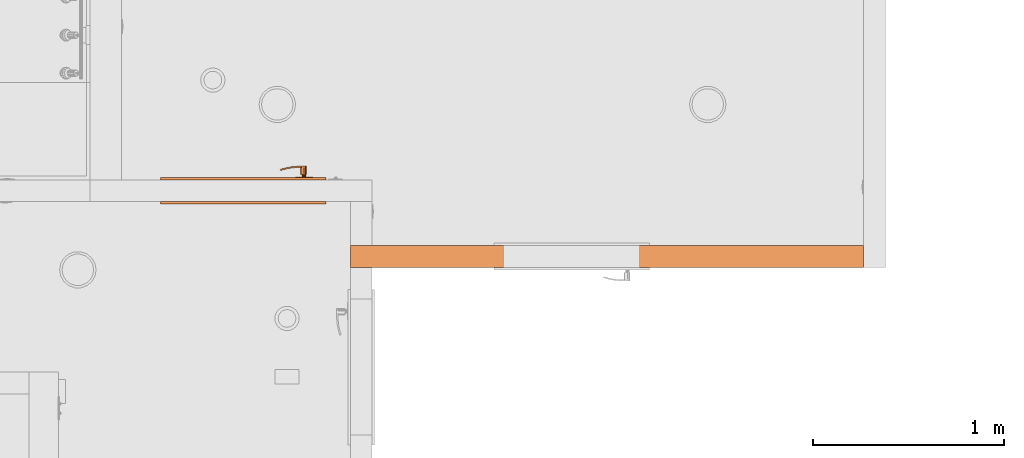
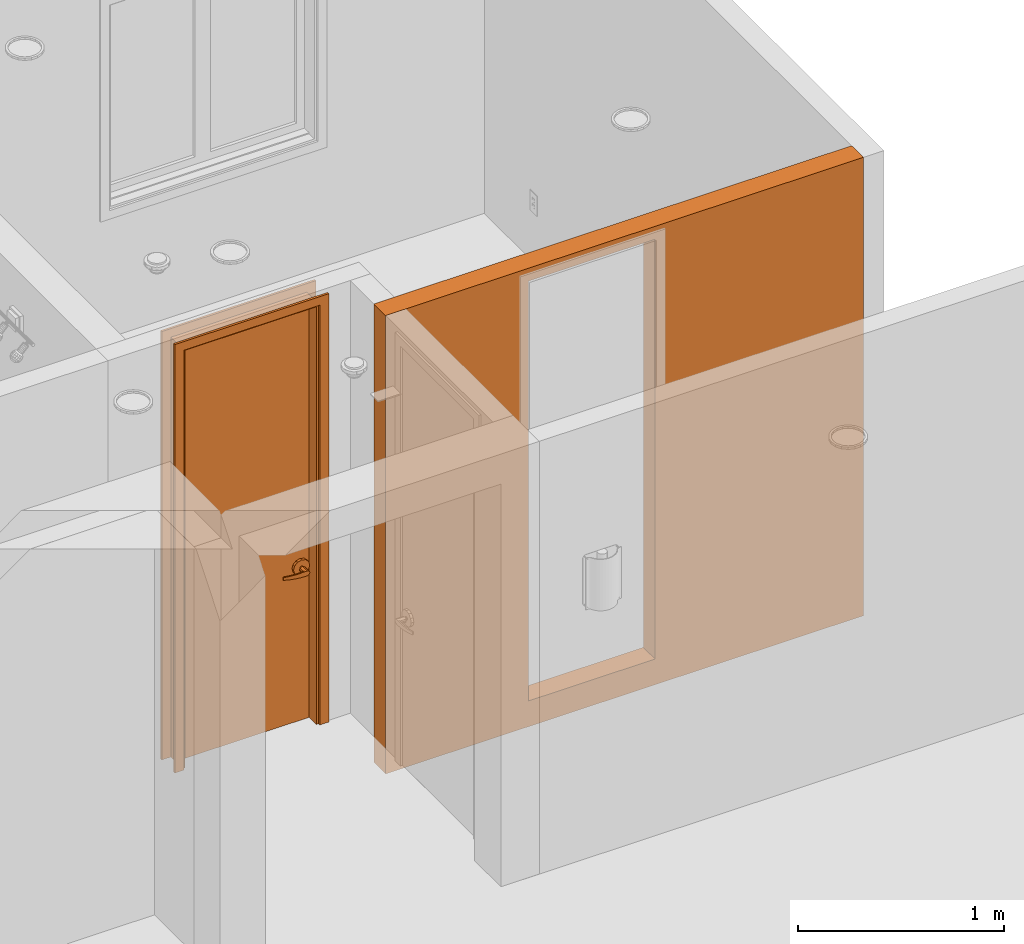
# One storey, part 42 of 48: 2 proxies.
"""IFC2X3 building model written with IfcOpenShell, lengths in inches."""

import ifcopenshell
import ifcopenshell.guid

model = None  # the IFC model being written
_history = None  # IfcOwnerHistory: only IFC2X3 demands one
_inside = {}  # id of a spatial element -> (the spatial element, [elements in it])
_under = {}  # id of a project, library or spatial element -> (it, [spatial elements below it])
_declared = {}  # id of a project -> (the project, [libraries it declares])
_typed = {}  # id of a type object -> (the type object, [elements of that type])
_made_of = {}  # id of a material, layer set ... -> (it, [elements and type objects made of it])


def new_model(schema):
    """Start an empty IFC model of exactly this schema.

    Asked for "IFC4X3", IfcOpenShell would pick the latest addendum, in which some entities
    have other attributes; the version numbers below select the first issue.
    IFC2X3 requires an IfcOwnerHistory on every rooted entity: one is made here for all.
    """
    global model, _history
    if schema == "IFC4X3":
        model = ifcopenshell.file(schema_version=(4, 3, 0, 0))
    else:
        model = ifcopenshell.file(schema=schema)
    _inside.clear()
    _under.clear()
    _declared.clear()
    _typed.clear()
    _made_of.clear()
    _history = None
    if model.schema == "IFC2X3":
        org = make("IfcOrganization", Name="unknown")
        user = make(
            "IfcPersonAndOrganization",
            ThePerson=make("IfcPerson", FamilyName="unknown"),
            TheOrganization=org,
        )
        app = make(
            "IfcApplication",
            ApplicationDeveloper=org,
            Version="unknown",
            ApplicationFullName="unknown",
            ApplicationIdentifier="unknown",
        )
        _history = make(
            "IfcOwnerHistory",
            OwningUser=user,
            OwningApplication=app,
            ChangeAction="ADDED",
            CreationDate=0,
        )
    return model


def make(cls, **values):
    """One entity of the class cls with the attributes given. An attribute that is None is left unset."""
    return model.create_entity(
        cls, **{name: value for name, value in values.items() if value is not None}
    )


def entity(cls, *values):
    """Any entity or typed value of the class cls, its attributes in the order of the schema. None: left unset."""
    e = model.create_entity(cls)
    for i, value in enumerate(values):
        if value is not None:
            e[i] = value
    return e


def rooted(cls, **values):
    """An entity with a GlobalId (a new one), such as an element, a storey or a relation."""
    return make(cls, GlobalId=ifcopenshell.guid.new(), OwnerHistory=_history, **values)


def si_unit(unit_type, name, prefix=None):
    """IfcSIUnit, for example si_unit("LENGTHUNIT", "METRE", prefix="MILLI")."""
    return make("IfcSIUnit", UnitType=unit_type, Prefix=prefix, Name=name)


def converted_unit(unit_type, name, factor, base, dimensions=None, offset=None):
    """IfcConversionBasedUnit, such as the inch: factor (a typed value) times the base unit."""
    return make(
        "IfcConversionBasedUnit"
        if offset is None
        else "IfcConversionBasedUnitWithOffset",
        ConversionOffset=offset,
        Dimensions=None
        if dimensions is None
        else entity("IfcDimensionalExponents", *dimensions),
        UnitType=unit_type,
        Name=name,
        ConversionFactor=make(
            "IfcMeasureWithUnit", ValueComponent=factor, UnitComponent=base
        ),
    )


def derived_unit(unit_type, elements):
    """IfcDerivedUnit: a product of units, each with its exponent."""
    return make(
        "IfcDerivedUnit",
        Elements=[
            make("IfcDerivedUnitElement", Unit=unit, Exponent=power)
            for unit, power in elements
        ],
        UnitType=unit_type,
    )


def money_unit(currency):
    """IfcMonetaryUnit."""
    return make("IfcMonetaryUnit", Currency=currency)


def assignment(units):
    """IfcUnitAssignment: the units of a project."""
    return None if units is None else make("IfcUnitAssignment", Units=units)


def point(xyz):
    """IfcCartesianPoint."""
    return None if xyz is None else make("IfcCartesianPoint", Coordinates=xyz)


def direction(xyz):
    """IfcDirection."""
    return None if xyz is None else make("IfcDirection", DirectionRatios=xyz)


def frame(location, z_axis=None, x_axis=None):
    """IfcAxis2Placement3D, a coordinate frame: its origin and axes. An axis left out is left unset."""
    return make(
        "IfcAxis2Placement3D",
        Location=point(location),
        Axis=direction(z_axis),
        RefDirection=direction(x_axis),
    )


def origin_with_axes():
    """The frame at (0, 0, 0) with the z axis (0, 0, 1) and the x axis (1, 0, 0) written out."""
    return frame((0.0, 0.0, 0.0), z_axis=(0.0, 0.0, 1.0), x_axis=(1.0, 0.0, 0.0))


def place(relative_to, where):
    """IfcLocalPlacement: puts the frame where relative to a parent placement (None: the world)."""
    return make(
        "IfcLocalPlacement", PlacementRelTo=relative_to, RelativePlacement=where
    )


def context(
    kind, dimensions, precision=None, world=None, true_north=None, identifier=None
):
    """IfcGeometricRepresentationContext, for example the 3D "Model" context."""
    return make(
        "IfcGeometricRepresentationContext",
        ContextIdentifier=identifier,
        ContextType=kind,
        CoordinateSpaceDimension=dimensions,
        Precision=precision,
        WorldCoordinateSystem=world,
        TrueNorth=true_north,
    )


def subcontext(parent, identifier, kind, view, scale=None):
    """IfcGeometricRepresentationSubContext, for example "Body" below "Model"."""
    return make(
        "IfcGeometricRepresentationSubContext",
        ContextIdentifier=identifier,
        ContextType=kind,
        ParentContext=parent,
        TargetScale=scale,
        TargetView=view,
    )


def project(units=None, contexts=None):
    """IfcProject with its units and contexts."""
    return rooted(
        "IfcProject",
        Name="project",
        RepresentationContexts=contexts,
        UnitsInContext=assignment(units),
    )


def spatial(cls, under=None, at=None, **own):
    """A site, building, storey or space (cls), placed at a placement, below another one or the project."""
    s = rooted(cls, ObjectPlacement=at, **own)
    if under is not None:
        _under.setdefault(under.id(), (under, []))[1].append(s)
    return s


def faces_of(points, faces, orient=None, outer=None):
    """IfcFace entities. A face is a list of loops; a loop is a list of indices into points, from 0.

    orient and outer hold one flag for each loop. By default every Orientation is true, the
    first loop of a face is its IfcFaceOuterBound and the others are IfcFaceBound.
    """
    made = []
    for i, loops in enumerate(faces):
        bounds = []
        for j, loop in enumerate(loops):
            is_outer = j == 0 if outer is None else outer[i][j]
            bounds.append(
                make(
                    "IfcFaceOuterBound" if is_outer else "IfcFaceBound",
                    Bound=make("IfcPolyLoop", Polygon=[points[k] for k in loop]),
                    Orientation=True if orient is None else orient[i][j],
                )
            )
        made.append(make("IfcFace", Bounds=bounds))
    return made


def open_shell(faces, orient=None, outer=None):
    """The faces of one IfcOpenShell. surface_model builds it on its shared points."""
    return ("IfcOpenShell", faces, orient, outer)


def faceted_brep(points, faces, orient=None, outer=None, voids=None):
    """IfcFacetedBrep: a solid bounded by flat faces; with voids (closed shells), ...WithVoids."""
    shared = [point(p) for p in points]
    hull = make("IfcClosedShell", CfsFaces=faces_of(shared, faces, orient, outer))
    if voids is None:
        return make("IfcFacetedBrep", Outer=hull)
    return make(
        "IfcFacetedBrepWithVoids",
        Outer=hull,
        Voids=[
            make(cls, CfsFaces=faces_of(shared, fs, o, b)) for cls, fs, o, b in voids
        ],
    )


def surface_model(cls, points, shells):
    """IfcFaceBasedSurfaceModel or IfcShellBasedSurfaceModel (cls): surfaces that need not close."""
    shared = [point(p) for p in points]
    made = [make(c, CfsFaces=faces_of(shared, fs, o, b)) for c, fs, o, b in shells]
    if cls == "IfcFaceBasedSurfaceModel":
        return make(cls, FbsmFaces=made)
    return make(cls, SbsmBoundary=made)


def shape(context_of_items, identifier, shape_type, items):
    """IfcShapeRepresentation: the items that make up one representation, for example the "Body"."""
    return make(
        "IfcShapeRepresentation",
        ContextOfItems=context_of_items,
        RepresentationIdentifier=identifier,
        RepresentationType=shape_type,
        Items=items,
    )


def material(Name=None, Category=None):
    """IfcMaterial."""
    return make("IfcMaterial", Name=Name, Category=Category)


def made_of(thing, what):
    """Note that an element or type object is made of a material, layer set ...; save() writes the relation."""
    if what is not None:
        _made_of.setdefault(what.id(), (what, []))[1].append(thing)
    return thing


def type_object(cls, material=None, **own):
    """A type object (cls), such as IfcWallType, which elements share."""
    return made_of(rooted(cls, **own), material)


def element(
    cls,
    number,
    at=None,
    inside=None,
    cuts=None,
    type_object=None,
    material=None,
    context=None,
    identifier="Body",
    shape_type=None,
    held_by="IfcProductDefinitionShape",
    body=None,
    shapes=None,
    **own,
):
    """One element of the class cls, such as IfcWall. Its Tag is "e" and its number.

    at: its placement. inside: the storey or other place that contains it. cuts: it is an
    opening in that element (IfcRelVoidsElement). A single representation is given by context,
    identifier, shape_type and body (its items); several are given by shapes. held_by: the class
    of the entity that holds the representations. save() writes the other relations.
    """
    e = rooted(cls, Tag="e%d" % number, ObjectPlacement=at, **own)
    if body is not None:
        shapes = [shape(context, identifier, shape_type, body)]
    if shapes is not None:
        e.Representation = make(held_by, Representations=shapes)
    if inside is not None:
        _inside.setdefault(inside.id(), (inside, []))[1].append(e)
    if cuts is not None:
        rooted(
            "IfcRelVoidsElement", RelatingBuildingElement=cuts, RelatedOpeningElement=e
        )
    if type_object is not None:
        _typed.setdefault(type_object.id(), (type_object, []))[1].append(e)
    return made_of(e, material)


def aggregate(whole, parts):
    """IfcRelAggregates: a whole, such as a stair, and the parts it consists of."""
    return rooted("IfcRelAggregates", RelatingObject=whole, RelatedObjects=parts)


def save(model, path):
    """Write the relations noted so far, then the file.

    IfcRelAggregates (storeys below a building ...), IfcRelContainedInSpatialStructure (elements
    in a storey), IfcRelDefinesByType, IfcRelAssociatesMaterial and IfcRelDeclares: one each for
    every whole, place, type object, material and project.
    """
    for whole, parts in _under.values():
        aggregate(whole, parts)
    for where, things in _inside.values():
        rooted(
            "IfcRelContainedInSpatialStructure",
            RelatedElements=things,
            RelatingStructure=where,
        )
    for kind, things in _typed.values():
        rooted("IfcRelDefinesByType", RelatedObjects=things, RelatingType=kind)
    for what, things in _made_of.values():
        rooted("IfcRelAssociatesMaterial", RelatedObjects=things, RelatingMaterial=what)
    for by, libraries in _declared.values():
        rooted("IfcRelDeclares", RelatingContext=by, RelatedDefinitions=libraries)
    model.write(path)


model = new_model("IFC2X3")

# Units and contexts
model_context = context("Model", 3, precision=0.00039370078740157, world=origin_with_axes(), true_north=direction((0.0, 1.0)))
plan_context = context("Plan", 3, precision=0.00039370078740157, world=origin_with_axes(), true_north=direction((0.0, 1.0)))
body_context = subcontext(model_context, "Body", "Model", "MODEL_VIEW")
ifc_project = project(units=[converted_unit("LENGTHUNIT", "INCH", entity("IfcPositiveLengthMeasure", 0.0254), si_unit("LENGTHUNIT", "METRE"), dimensions=[1, 0, 0, 0, 0, 0, 0]), converted_unit("AREAUNIT", "SQUARE_FOOT", entity("IfcPositiveLengthMeasure", 0.09290304), si_unit("AREAUNIT", "SQUARE_METRE"), dimensions=[2, 0, 0, 0, 0, 0, 0]), si_unit("PLANEANGLEUNIT", "RADIAN"), si_unit("SOLIDANGLEUNIT", "STERADIAN"), money_unit("USD"), converted_unit("TIMEUNIT", "Year", entity("IfcTimeMeasure", 31557600.0), si_unit("TIMEUNIT", "SECOND"), dimensions=[0, 0, 1, 0, 0, 0, 0]), si_unit("MASSUNIT", "GRAM", prefix="KILO"), si_unit("THERMODYNAMICTEMPERATUREUNIT", "DEGREE_CELSIUS"), si_unit("LUMINOUSINTENSITYUNIT", "LUMEN"), si_unit("ENERGYUNIT", "JOULE", prefix="MEGA"), derived_unit("SPECIFICHEATCAPACITYUNIT", [(si_unit("ENERGYUNIT", "JOULE"), 1), (si_unit("MASSUNIT", "GRAM", prefix="KILO"), -1), (si_unit("THERMODYNAMICTEMPERATUREUNIT", "KELVIN"), -1)])], contexts=[model_context, plan_context])

# Site, building, storey
site_placement = place(None, origin_with_axes())
site = spatial("IfcSite", under=ifc_project, at=site_placement, Name="Site", CompositionType="ELEMENT")
building_placement = place(site_placement, origin_with_axes())
building = spatial("IfcBuilding", under=site, at=building_placement, Name="Building", CompositionType="ELEMENT")
storey_placement = place(building_placement, origin_with_axes())
storey = spatial("IfcBuildingStorey", under=building, at=storey_placement, Name="First Floor", CompositionType="ELEMENT", Elevation=0.0)

# Proxies
ifc_material = material(Name="Generic - Structural")
building_element_proxy_type_1 = type_object("IfcBuildingElementProxyType", Name="Generic - Structural 4 1/2\"", PredefinedType="NOTDEFINED")
proxy_1_placement = place(storey_placement, frame((-3.999999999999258, 412.999999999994, -5.99999999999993), z_axis=(0.0, 0.0, 1.0), x_axis=(1.0, 0.0, 0.0)))
element("IfcBuildingElementProxy", 1, at=proxy_1_placement, inside=storey, type_object=building_element_proxy_type_1, material=ifc_material, Name="SW - 059", context=body_context, shape_type="Brep", body=[
    faceted_brep([(105.4999999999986, -4.499999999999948, 106.9999999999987), (0.0, -4.499999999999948, 106.9999999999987), (0.0, -4.499999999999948, 0.0), (105.4999999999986, -4.499999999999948, 0.0), (31.49999999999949, -4.499999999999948, 5.99999999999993), (31.49999999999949, -4.499999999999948, 103.9999999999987), (59.49999999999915, -4.499999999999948, 103.9999999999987), (59.49999999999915, -4.499999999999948, 5.99999999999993), (105.4999999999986, 0.0, 106.9999999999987), (0.0, 0.0, 106.9999999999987), (0.0, 0.0, 0.0), (105.4999999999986, 0.0, 0.0), (31.49999999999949, 0.0, 5.99999999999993), (31.49999999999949, 0.0, 103.9999999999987), (59.49999999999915, 0.0, 103.9999999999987), (59.49999999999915, 0.0, 5.99999999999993)], [[[0, 1, 2, 3], [4, 5, 6, 7]], [[8, 9, 1, 0]], [[10, 2, 1, 9]], [[3, 2, 10, 11]], [[11, 8, 0, 3]], [[12, 13, 5, 4]], [[13, 14, 6, 5]], [[14, 15, 7, 6]], [[15, 12, 4, 7]], [[11, 10, 9, 8], [12, 15, 14, 13]]]),
])
building_element_proxy_type_2 = type_object("IfcBuildingElementProxyType", Name="D1", PredefinedType="NOTDEFINED")
proxy_2_placement = place(storey_placement, frame((-40.99999999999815, 426.4999999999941, 0.0), z_axis=(0.0, 0.0, 1.0), x_axis=(1.0, 0.0, 0.0)))
element("IfcBuildingElementProxy", 2, at=proxy_2_placement, inside=storey, type_object=building_element_proxy_type_2, Name="D-09", context=body_context, shape_type="SurfaceModel", body=[
    faceted_brep([(31.99999999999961, -4.999999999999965, 0.0), (29.99999999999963, -4.999999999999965, 0.0), (29.99999999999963, -4.499999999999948, 0.0), (31.99999999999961, -4.499999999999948, 0.0), (31.99999999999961, -4.999999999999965, 99.99999999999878), (29.99999999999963, -4.999999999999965, 97.99999999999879), (29.99999999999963, -4.499999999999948, 97.99999999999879), (31.99999999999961, -4.499999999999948, 99.99999999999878)], [[[0, 1, 2, 3]], [[0, 4, 5, 1]], [[1, 5, 6, 2]], [[3, 2, 6, 7]], [[4, 0, 3, 7]], [[5, 4, 7, 6]]]),
    faceted_brep([(-1.999999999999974, -4.999999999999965, 99.99999999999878), (0.0, -4.999999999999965, 97.99999999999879), (0.0, -4.499999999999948, 97.99999999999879), (-1.999999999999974, -4.499999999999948, 99.99999999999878), (-1.999999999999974, -4.999999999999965, 0.0), (0.0, -4.999999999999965, 0.0), (0.0, -4.499999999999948, 0.0), (-1.999999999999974, -4.499999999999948, 0.0)], [[[0, 1, 2, 3]], [[0, 4, 5, 1]], [[1, 5, 6, 2]], [[3, 2, 6, 7]], [[4, 0, 3, 7]], [[5, 4, 7, 6]]]),
    faceted_brep([(31.99999999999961, -4.999999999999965, 99.99999999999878), (29.99999999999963, -4.999999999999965, 97.99999999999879), (29.99999999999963, -4.499999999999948, 97.99999999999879), (31.99999999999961, -4.499999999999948, 99.99999999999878), (-1.999999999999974, -4.999999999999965, 99.99999999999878), (0.0, -4.999999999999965, 97.99999999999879), (0.0, -4.499999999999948, 97.99999999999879), (-1.999999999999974, -4.499999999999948, 99.99999999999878)], [[[0, 1, 2, 3]], [[0, 4, 5, 1]], [[1, 5, 6, 2]], [[3, 2, 6, 7]], [[4, 0, 3, 7]], [[5, 4, 7, 6]]]),
    faceted_brep([(31.99999999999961, 0.5000000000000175, 0.0), (31.99999999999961, 0.0, 0.0), (29.99999999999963, 0.0, 0.0), (29.99999999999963, 0.5000000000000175, 0.0), (31.99999999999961, 0.5000000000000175, 99.99999999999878), (31.99999999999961, 0.0, 99.99999999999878), (29.99999999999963, 0.0, 97.99999999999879), (29.99999999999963, 0.5000000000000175, 97.99999999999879)], [[[0, 1, 2, 3]], [[4, 5, 1, 0]], [[1, 5, 6, 2]], [[3, 2, 6, 7]], [[0, 3, 7, 4]], [[7, 6, 5, 4]]]),
    faceted_brep([(-1.999999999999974, 0.5000000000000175, 99.99999999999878), (-1.999999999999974, 0.0, 99.99999999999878), (0.0, 0.0, 97.99999999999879), (0.0, 0.5000000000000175, 97.99999999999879), (-1.999999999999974, 0.5000000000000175, 0.0), (-1.999999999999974, 0.0, 0.0), (0.0, 0.0, 0.0), (0.0, 0.5000000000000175, 0.0)], [[[0, 1, 2, 3]], [[4, 5, 1, 0]], [[1, 5, 6, 2]], [[3, 2, 6, 7]], [[0, 3, 7, 4]], [[7, 6, 5, 4]]]),
    faceted_brep([(31.99999999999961, 0.5000000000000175, 99.99999999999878), (31.99999999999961, 0.0, 99.99999999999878), (29.99999999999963, 0.0, 97.99999999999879), (29.99999999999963, 0.5000000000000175, 97.99999999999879), (-1.999999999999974, 0.5000000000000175, 99.99999999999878), (-1.999999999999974, 0.0, 99.99999999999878), (0.0, 0.0, 97.99999999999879), (0.0, 0.5000000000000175, 97.99999999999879)], [[[0, 1, 2, 3]], [[4, 5, 1, 0]], [[1, 5, 6, 2]], [[3, 2, 6, 7]], [[0, 3, 7, 4]], [[7, 6, 5, 4]]]),
    faceted_brep([(29.99999999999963, 0.0, 0.0), (29.99999999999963, -4.499999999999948, 0.0), (29.49999999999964, -4.499999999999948, 0.0), (29.49999999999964, 0.0, 0.0), (29.99999999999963, 0.0, 97.49999999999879), (29.99999999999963, -4.499999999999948, 97.49999999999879), (29.49999999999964, -4.499999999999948, 97.49999999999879), (29.49999999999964, 0.0, 97.49999999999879)], [[[0, 1, 2, 3]], [[4, 5, 1, 0]], [[1, 5, 6, 2]], [[3, 2, 6, 7]], [[0, 3, 7, 4]], [[7, 6, 5, 4]]]),
    faceted_brep([(0.0, 0.0, 0.0), (0.0, -4.499999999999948, 0.0), (0.0, -4.499999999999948, 97.49999999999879), (0.0, 0.0, 97.49999999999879), (0.4999999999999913, 0.0, 0.0), (0.4999999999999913, -4.499999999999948, 0.0), (0.4999999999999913, -4.499999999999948, 97.49999999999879), (0.4999999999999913, 0.0, 97.49999999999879)], [[[0, 1, 2, 3]], [[4, 5, 1, 0]], [[1, 5, 6, 2]], [[3, 2, 6, 7]], [[0, 3, 7, 4]], [[7, 6, 5, 4]]]),
    faceted_brep([(29.99999999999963, 0.0, 97.99999999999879), (29.99999999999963, -4.499999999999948, 97.99999999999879), (29.99999999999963, -4.499999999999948, 97.49999999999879), (29.99999999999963, 0.0, 97.49999999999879), (0.0, 0.0, 97.99999999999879), (0.0, -4.499999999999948, 97.99999999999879), (0.0, -4.499999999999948, 97.49999999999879), (0.4999999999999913, -4.499999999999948, 97.49999999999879), (29.49999999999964, -4.499999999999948, 97.49999999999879), (29.49999999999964, 0.0, 97.49999999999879), (0.4999999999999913, 0.0, 97.49999999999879), (0.0, 0.0, 97.49999999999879)], [[[0, 1, 2, 3]], [[4, 5, 1, 0]], [[1, 5, 6, 7, 8, 2]], [[3, 2, 8, 9]], [[0, 3, 9, 10, 11, 4]], [[11, 6, 5, 4]], [[10, 7, 6, 11]], [[9, 8, 7, 10]]]),
    surface_model("IfcShellBasedSurfaceModel", [(25.94865528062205, -2.340551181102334, 36.89566929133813), (25.94865528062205, -2.336614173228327, 36.89566929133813), (25.70866141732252, -2.336614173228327, 35.99999999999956), (25.70866141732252, -2.340551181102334, 35.99999999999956), (26.6043307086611, -2.340551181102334, 37.55134471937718), (26.6043307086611, -2.336614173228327, 37.55134471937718), (25.94865528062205, -1.753937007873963, 36.89566929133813), (25.70866141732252, -1.753937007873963, 35.99999999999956), (25.94865528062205, -2.336614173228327, 35.10433070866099), (25.94865528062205, -2.340551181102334, 35.10433070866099), (26.6043307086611, -2.340551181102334, 34.44865528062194), (27.49999999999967, -2.340551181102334, 34.20866141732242), (28.39566929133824, -2.340551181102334, 34.44865528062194), (29.05134471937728, -2.340551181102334, 35.10433070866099), (29.29133858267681, -2.340551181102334, 35.99999999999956), (29.05134471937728, -2.340551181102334, 36.89566929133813), (28.39566929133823, -2.340551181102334, 37.55134471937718), (27.49999999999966, -2.340551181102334, 37.7913385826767), (27.49999999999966, -2.336614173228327, 37.7913385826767), (26.6043307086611, -1.753937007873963, 37.55134471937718), (25.94865528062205, -1.749999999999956, 36.89566929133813), (25.70866141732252, -1.749999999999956, 35.99999999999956), (25.94865528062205, -1.753937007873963, 35.10433070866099), (26.6043307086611, -2.336614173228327, 34.44865528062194), (27.49999999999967, -2.336614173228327, 34.20866141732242), (28.39566929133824, -2.336614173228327, 34.44865528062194), (29.05134471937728, -2.336614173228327, 35.10433070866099), (29.29133858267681, -2.336614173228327, 35.99999999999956), (29.05134471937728, -2.336614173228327, 36.89566929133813), (28.39566929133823, -2.336614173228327, 37.55134471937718), (27.49999999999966, -1.753937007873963, 37.7913385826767), (26.6043307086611, -1.749999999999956, 37.55134471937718), (25.94865528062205, -1.749999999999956, 35.10433070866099), (26.6043307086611, -1.753937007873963, 34.44865528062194), (27.49999999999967, -1.753937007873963, 34.20866141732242), (28.39566929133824, -1.753937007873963, 34.44865528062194), (29.05134471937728, -1.753937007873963, 35.10433070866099), (29.29133858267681, -1.753937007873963, 35.99999999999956), (29.05134471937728, -1.753937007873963, 36.89566929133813), (28.39566929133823, -1.753937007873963, 37.55134471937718), (27.49999999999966, -1.749999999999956, 37.7913385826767), (26.6043307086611, -1.749999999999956, 34.44865528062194), (27.49999999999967, -1.749999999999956, 34.20866141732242), (28.39566929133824, -1.749999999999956, 34.44865528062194), (29.05134471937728, -1.749999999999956, 35.10433070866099), (29.29133858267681, -1.749999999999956, 35.99999999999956), (29.05134471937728, -1.749999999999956, 36.89566929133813), (28.39566929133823, -1.749999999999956, 37.55134471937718)], [open_shell([[[0, 1, 2, 3]], [[4, 5, 1, 0]], [[1, 6, 7, 2]], [[3, 2, 8, 9]], [[3, 9, 10, 11, 12, 13, 14, 15, 16, 17, 4, 0]], [[17, 18, 5, 4]], [[5, 19, 6, 1]], [[6, 20, 21, 7]], [[2, 7, 22, 8]], [[9, 8, 23, 10]], [[10, 23, 24, 11]], [[11, 24, 25, 12]], [[12, 25, 26, 13]], [[13, 26, 27, 14]], [[14, 27, 28, 15]], [[15, 28, 29, 16]], [[16, 29, 18, 17]], [[18, 30, 19, 5]], [[19, 31, 20, 6]], [[7, 21, 32, 22]], [[8, 22, 33, 23]], [[23, 33, 34, 24]], [[24, 34, 35, 25]], [[25, 35, 36, 26]], [[26, 36, 37, 27]], [[27, 37, 38, 28]], [[28, 38, 39, 29]], [[29, 39, 30, 18]], [[30, 40, 31, 19]], [[22, 32, 41, 33]], [[33, 41, 42, 34]], [[34, 42, 43, 35]], [[35, 43, 44, 36]], [[36, 44, 45, 37]], [[37, 45, 46, 38]], [[38, 46, 47, 39]], [[39, 47, 40, 30]]])]),
    faceted_brep([(27.69685039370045, -2.340551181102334, 35.65904511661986), (27.49999999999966, -2.340551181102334, 35.60629921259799), (27.30314960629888, -2.340551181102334, 35.65904511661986), (27.15904511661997, -2.340551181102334, 35.80314960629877), (27.10629921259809, -2.340551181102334, 35.99999999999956), (27.15904511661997, -2.340551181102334, 36.19685039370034), (27.30314960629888, -2.340551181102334, 36.34095488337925), (27.49999999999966, -2.340551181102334, 36.39370078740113), (27.69685039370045, -2.340551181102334, 36.34095488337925), (27.84095488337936, -2.340551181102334, 36.19685039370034), (27.89370078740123, -2.340551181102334, 35.99999999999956), (27.84095488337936, -2.340551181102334, 35.80314960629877), (27.69685039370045, -2.852362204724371, 35.65904511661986), (27.49999999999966, -2.852362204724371, 35.60629921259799), (27.30314960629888, -2.852362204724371, 35.65904511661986), (27.15904511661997, -2.852362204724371, 35.80314960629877), (27.10629921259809, -2.852362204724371, 35.99999999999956), (27.15904511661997, -2.852362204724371, 36.19685039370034), (27.30314960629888, -2.852362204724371, 36.34095488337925), (27.49999999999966, -2.852362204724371, 36.39370078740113), (27.69685039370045, -2.852362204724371, 36.34095488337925), (27.84095488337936, -2.852362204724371, 36.19685039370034), (27.89370078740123, -2.852362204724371, 35.99999999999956), (27.84095488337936, -2.852362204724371, 35.80314960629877)], [[[0, 1, 2, 3, 4, 5, 6, 7, 8, 9, 10, 11]], [[0, 12, 13, 1]], [[1, 13, 14, 2]], [[2, 14, 15, 3]], [[3, 15, 16, 4]], [[4, 16, 17, 5]], [[5, 17, 18, 6]], [[6, 18, 19, 7]], [[7, 19, 20, 8]], [[8, 20, 21, 9]], [[9, 21, 22, 10]], [[10, 22, 23, 11]], [[11, 23, 12, 0]], [[12, 23, 22, 21, 20, 19, 18, 17, 16, 15, 14, 13]]]),
    faceted_brep([(27.49999999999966, -2.852362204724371, 36.55118110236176), (27.49999999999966, -4.269685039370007, 36.55118110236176), (27.77559055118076, -4.269685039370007, 36.47733683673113), (27.77559055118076, -2.852362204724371, 36.47733683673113), (27.10629921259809, -2.852362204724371, 36.47244094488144), (27.10629921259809, -4.269685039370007, 36.47244094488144), (26.87352117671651, -4.269685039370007, 36.35358914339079), (26.73705189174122, -4.269685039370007, 36.13068221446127), (26.73705189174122, -4.269685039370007, 35.86931778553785), (26.87352117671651, -4.269685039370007, 35.64641085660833), (27.10629921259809, -4.269685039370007, 35.52755905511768), (27.49999999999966, -4.269685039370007, 35.44881889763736), (27.77559055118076, -4.269685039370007, 35.52266316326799), (27.97733683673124, -4.269685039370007, 35.72440944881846), (28.05118110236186, -4.269685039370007, 35.99999999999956), (27.97733683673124, -4.269685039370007, 36.27559055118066), (27.97733683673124, -2.852362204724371, 36.27559055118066), (28.05118110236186, -2.852362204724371, 35.99999999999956), (27.97733683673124, -2.852362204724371, 35.72440944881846), (27.77559055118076, -2.852362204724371, 35.52266316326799), (27.49999999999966, -2.852362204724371, 35.44881889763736), (27.10629921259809, -2.852362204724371, 35.52755905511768), (26.87352117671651, -2.852362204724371, 35.64641085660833), (26.73705189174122, -2.852362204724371, 35.86931778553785), (26.73705189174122, -2.852362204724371, 36.13068221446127), (26.87352117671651, -2.852362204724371, 36.35358914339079)], [[[0, 1, 2, 3]], [[4, 5, 1, 0]], [[1, 5, 6, 7, 8, 9, 10, 11, 12, 13, 14, 15, 2]], [[3, 2, 15, 16]], [[0, 3, 16, 17, 18, 19, 20, 21, 22, 23, 24, 25, 4]], [[25, 6, 5, 4]], [[24, 7, 6, 25]], [[23, 8, 7, 24]], [[22, 9, 8, 23]], [[21, 10, 9, 22]], [[20, 11, 10, 21]], [[19, 12, 11, 20]], [[18, 13, 12, 19]], [[17, 14, 13, 18]], [[16, 15, 14, 17]]]),
    surface_model("IfcShellBasedSurfaceModel", [(27.49999999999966, -4.269685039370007, 36.55118110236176), (27.49999999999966, -4.545275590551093, 36.55118110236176), (27.77559055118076, -4.545275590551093, 36.47733683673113), (27.77559055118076, -4.269685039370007, 36.47733683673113), (26.51574803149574, -4.269685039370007, 36.55118110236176), (26.51574803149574, -4.545275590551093, 36.55118110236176), (26.51574803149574, -4.545275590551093, 35.44881889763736), (27.49999999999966, -4.545275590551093, 35.44881889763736), (27.77559055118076, -4.545275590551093, 35.52266316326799), (27.97733683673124, -4.545275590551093, 35.72440944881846), (28.05118110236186, -4.545275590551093, 35.99999999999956), (27.97733683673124, -4.545275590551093, 36.27559055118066), (27.97733683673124, -4.269685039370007, 36.27559055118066), (28.05118110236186, -4.269685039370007, 35.99999999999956), (27.97733683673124, -4.269685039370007, 35.72440944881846), (27.77559055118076, -4.269685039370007, 35.52266316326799), (27.49999999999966, -4.269685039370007, 35.44881889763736), (26.51574803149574, -4.269685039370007, 35.44881889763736)], [open_shell([[[0, 1, 2, 3]], [[4, 5, 1, 0]], [[1, 5, 6, 7, 8, 9, 10, 11, 2]], [[3, 2, 11, 12]], [[0, 3, 12, 13, 14, 15, 16, 17, 4]], [[16, 7, 6, 17]], [[15, 8, 7, 16]], [[14, 9, 8, 15]], [[13, 10, 9, 14]], [[12, 11, 10, 13]]])]),
    surface_model("IfcShellBasedSurfaceModel", [(26.51574803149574, -4.269685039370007, 35.44881889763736), (25.98803506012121, -4.545275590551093, 35.47974008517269), (26.00006760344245, -4.269685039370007, 35.47974008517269), (26.51574803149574, -4.545275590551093, 35.44881889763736), (24.93662533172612, -4.453289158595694, 35.54158246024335), (26.00006760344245, -4.269685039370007, 36.52025991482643), (26.51574803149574, -4.269685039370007, 36.55118110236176), (26.51574803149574, -4.545275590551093, 36.55118110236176), (25.98803506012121, -4.545275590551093, 36.52025991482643), (24.93662533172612, -4.453289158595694, 36.45841753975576), (24.97263138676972, -4.179796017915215, 35.54158246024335), (24.97263138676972, -4.179796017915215, 36.45841753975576), (23.89723368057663, -4.270016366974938, 36.3965751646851), (23.89723368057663, -4.270016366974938, 35.60342483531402), (23.95693921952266, -4.000702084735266, 35.60342483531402), (23.95693921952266, -4.000702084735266, 36.3965751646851), (22.87777050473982, -3.996852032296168, 36.33473278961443), (22.87777050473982, -3.996852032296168, 35.66526721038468), (22.96072113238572, -3.733766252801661, 35.66526721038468), (22.96072113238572, -3.733766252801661, 36.33473278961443), (22.56058250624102, -3.881405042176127, 36.31496062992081), (22.56058250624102, -3.881405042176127, 35.6850393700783), (22.65076543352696, -3.620951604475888, 35.6850393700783), (22.65076543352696, -3.620951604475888, 36.31496062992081)], [open_shell([[[0, 1, 2]], [[0, 3, 1]], [[2, 1, 4]], [[0, 2, 5, 6]], [[3, 7, 8, 1]], [[1, 8, 9, 4]], [[2, 4, 10]], [[2, 10, 11, 5]], [[5, 7, 6]], [[5, 8, 7]], [[11, 9, 8]], [[4, 9, 12, 13]], [[10, 4, 13]], [[10, 14, 15, 11]], [[11, 8, 5]], [[15, 9, 11]], [[15, 12, 9]], [[13, 12, 16, 17]], [[10, 13, 14]], [[14, 18, 19, 15]], [[19, 12, 15]], [[19, 16, 12]], [[17, 16, 20, 21]], [[14, 13, 17]], [[14, 17, 18]], [[18, 22, 23, 19]], [[23, 16, 19]], [[23, 20, 16]], [[22, 21, 20, 23]], [[18, 17, 21]], [[18, 21, 22]]])]),
    surface_model("IfcShellBasedSurfaceModel", [(25.94865528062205, 0.5905511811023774, 36.89566929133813), (25.70866141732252, 0.5905511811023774, 35.99999999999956), (25.70866141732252, 0.5866141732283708, 35.99999999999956), (25.94865528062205, 0.5866141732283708, 36.89566929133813), (26.60433070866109, 0.5905511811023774, 37.55134471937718), (27.49999999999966, 0.5905511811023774, 37.7913385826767), (28.39566929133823, 0.5905511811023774, 37.55134471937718), (29.05134471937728, 0.5905511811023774, 36.89566929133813), (29.29133858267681, 0.5905511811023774, 35.99999999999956), (29.05134471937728, 0.5905511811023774, 35.10433070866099), (28.39566929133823, 0.5905511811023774, 34.44865528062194), (27.49999999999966, 0.5905511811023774, 34.20866141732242), (26.60433070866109, 0.5905511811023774, 34.44865528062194), (25.94865528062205, 0.5905511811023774, 35.10433070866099), (25.94865528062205, 0.5866141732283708, 35.10433070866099), (25.70866141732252, 0.003937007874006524, 35.99999999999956), (25.94865528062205, 0.003937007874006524, 36.89566929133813), (26.60433070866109, 0.5866141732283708, 37.55134471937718), (27.49999999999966, 0.5866141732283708, 37.7913385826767), (28.39566929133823, 0.5866141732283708, 37.55134471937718), (29.05134471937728, 0.5866141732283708, 36.89566929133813), (29.29133858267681, 0.5866141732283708, 35.99999999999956), (29.05134471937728, 0.5866141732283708, 35.10433070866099), (28.39566929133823, 0.5866141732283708, 34.44865528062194), (27.49999999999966, 0.5866141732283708, 34.20866141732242), (26.60433070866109, 0.5866141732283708, 34.44865528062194), (25.94865528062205, 0.003937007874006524, 35.10433070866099), (25.70866141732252, 0.0, 35.99999999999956), (25.94865528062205, 0.0, 36.89566929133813), (26.60433070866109, 0.003937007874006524, 37.55134471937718), (27.49999999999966, 0.003937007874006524, 37.7913385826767), (28.39566929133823, 0.003937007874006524, 37.55134471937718), (29.05134471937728, 0.003937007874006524, 36.89566929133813), (29.29133858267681, 0.003937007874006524, 35.99999999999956), (29.05134471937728, 0.003937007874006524, 35.10433070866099), (28.39566929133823, 0.003937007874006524, 34.44865528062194), (27.49999999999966, 0.003937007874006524, 34.20866141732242), (26.60433070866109, 0.003937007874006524, 34.44865528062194), (25.94865528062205, 0.0, 35.10433070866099), (26.60433070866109, 0.0, 37.55134471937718), (27.49999999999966, 0.0, 37.7913385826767), (28.39566929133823, 0.0, 37.55134471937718), (29.05134471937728, 0.0, 36.89566929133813), (29.29133858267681, 0.0, 35.99999999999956), (29.05134471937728, 0.0, 35.10433070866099), (28.39566929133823, 0.0, 34.44865528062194), (27.49999999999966, 0.0, 34.20866141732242), (26.60433070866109, 0.0, 34.44865528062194)], [open_shell([[[0, 1, 2, 3]], [[1, 0, 4, 5, 6, 7, 8, 9, 10, 11, 12, 13]], [[1, 13, 14, 2]], [[3, 2, 15, 16]], [[4, 0, 3, 17]], [[5, 4, 17, 18]], [[6, 5, 18, 19]], [[7, 6, 19, 20]], [[8, 7, 20, 21]], [[9, 8, 21, 22]], [[10, 9, 22, 23]], [[11, 10, 23, 24]], [[12, 11, 24, 25]], [[13, 12, 25, 14]], [[2, 14, 26, 15]], [[16, 15, 27, 28]], [[17, 3, 16, 29]], [[18, 17, 29, 30]], [[19, 18, 30, 31]], [[20, 19, 31, 32]], [[21, 20, 32, 33]], [[22, 21, 33, 34]], [[23, 22, 34, 35]], [[24, 23, 35, 36]], [[25, 24, 36, 37]], [[14, 25, 37, 26]], [[15, 26, 38, 27]], [[29, 16, 28, 39]], [[30, 29, 39, 40]], [[31, 30, 40, 41]], [[32, 31, 41, 42]], [[33, 32, 42, 43]], [[34, 33, 43, 44]], [[35, 34, 44, 45]], [[36, 35, 45, 46]], [[37, 36, 46, 47]], [[26, 37, 47, 38]]])]),
    faceted_brep([(27.69685039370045, 0.5905511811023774, 35.65904511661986), (27.84095488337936, 0.5905511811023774, 35.80314960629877), (27.89370078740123, 0.5905511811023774, 35.99999999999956), (27.84095488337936, 0.5905511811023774, 36.19685039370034), (27.69685039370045, 0.5905511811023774, 36.34095488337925), (27.49999999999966, 0.5905511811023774, 36.39370078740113), (27.30314960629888, 0.5905511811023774, 36.34095488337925), (27.15904511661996, 0.5905511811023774, 36.19685039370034), (27.10629921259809, 0.5905511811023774, 35.99999999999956), (27.15904511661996, 0.5905511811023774, 35.80314960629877), (27.30314960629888, 0.5905511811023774, 35.65904511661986), (27.49999999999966, 0.5905511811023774, 35.60629921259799), (27.69685039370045, 1.102362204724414, 35.65904511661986), (27.84095488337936, 1.102362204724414, 35.80314960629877), (27.89370078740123, 1.102362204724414, 35.99999999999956), (27.84095488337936, 1.102362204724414, 36.19685039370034), (27.69685039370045, 1.102362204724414, 36.34095488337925), (27.49999999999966, 1.102362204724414, 36.39370078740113), (27.30314960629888, 1.102362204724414, 36.34095488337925), (27.15904511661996, 1.102362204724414, 36.19685039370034), (27.10629921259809, 1.102362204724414, 35.99999999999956), (27.15904511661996, 1.102362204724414, 35.80314960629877), (27.30314960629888, 1.102362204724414, 35.65904511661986), (27.49999999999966, 1.102362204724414, 35.60629921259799)], [[[0, 1, 2, 3, 4, 5, 6, 7, 8, 9, 10, 11]], [[1, 0, 12, 13]], [[2, 1, 13, 14]], [[3, 2, 14, 15]], [[4, 3, 15, 16]], [[5, 4, 16, 17]], [[6, 5, 17, 18]], [[7, 6, 18, 19]], [[8, 7, 19, 20]], [[9, 8, 20, 21]], [[10, 9, 21, 22]], [[11, 10, 22, 23]], [[0, 11, 23, 12]], [[12, 23, 22, 21, 20, 19, 18, 17, 16, 15, 14, 13]]]),
    faceted_brep([(27.49999999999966, 1.102362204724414, 36.55118110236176), (27.77559055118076, 1.102362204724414, 36.47733683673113), (27.77559055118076, 2.51968503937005, 36.47733683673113), (27.49999999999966, 2.51968503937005, 36.55118110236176), (27.10629921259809, 1.102362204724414, 36.47244094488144), (26.87352117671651, 1.102362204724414, 36.35358914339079), (26.73705189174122, 1.102362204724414, 36.13068221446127), (26.73705189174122, 1.102362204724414, 35.86931778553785), (26.87352117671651, 1.102362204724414, 35.64641085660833), (27.10629921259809, 1.102362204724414, 35.52755905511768), (27.49999999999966, 1.102362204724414, 35.44881889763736), (27.77559055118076, 1.102362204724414, 35.52266316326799), (27.97733683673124, 1.102362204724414, 35.72440944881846), (28.05118110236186, 1.102362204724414, 35.99999999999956), (27.97733683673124, 1.102362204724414, 36.27559055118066), (27.97733683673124, 2.51968503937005, 36.27559055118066), (28.05118110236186, 2.51968503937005, 35.99999999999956), (27.97733683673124, 2.51968503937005, 35.72440944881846), (27.77559055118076, 2.51968503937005, 35.52266316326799), (27.49999999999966, 2.51968503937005, 35.44881889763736), (27.10629921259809, 2.51968503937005, 35.52755905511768), (26.87352117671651, 2.51968503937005, 35.64641085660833), (26.73705189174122, 2.51968503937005, 35.86931778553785), (26.73705189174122, 2.51968503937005, 36.13068221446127), (26.87352117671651, 2.51968503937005, 36.35358914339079), (27.10629921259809, 2.51968503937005, 36.47244094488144)], [[[0, 1, 2, 3]], [[0, 4, 5, 6, 7, 8, 9, 10, 11, 12, 13, 14, 1]], [[1, 14, 15, 2]], [[3, 2, 15, 16, 17, 18, 19, 20, 21, 22, 23, 24, 25]], [[4, 0, 3, 25]], [[5, 4, 25, 24]], [[6, 5, 24, 23]], [[7, 6, 23, 22]], [[8, 7, 22, 21]], [[9, 8, 21, 20]], [[10, 9, 20, 19]], [[11, 10, 19, 18]], [[12, 11, 18, 17]], [[13, 12, 17, 16]], [[14, 13, 16, 15]]]),
    surface_model("IfcShellBasedSurfaceModel", [(27.49999999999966, 2.51968503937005, 36.55118110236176), (27.77559055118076, 2.51968503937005, 36.47733683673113), (27.77559055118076, 2.795275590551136, 36.47733683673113), (27.49999999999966, 2.795275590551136, 36.55118110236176), (26.51574803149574, 2.51968503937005, 36.55118110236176), (26.51574803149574, 2.51968503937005, 35.44881889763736), (27.49999999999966, 2.51968503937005, 35.44881889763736), (27.77559055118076, 2.51968503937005, 35.52266316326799), (27.97733683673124, 2.51968503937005, 35.72440944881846), (28.05118110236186, 2.51968503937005, 35.99999999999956), (27.97733683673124, 2.51968503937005, 36.27559055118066), (27.97733683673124, 2.795275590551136, 36.27559055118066), (28.05118110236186, 2.795275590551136, 35.99999999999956), (27.97733683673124, 2.795275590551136, 35.72440944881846), (27.77559055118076, 2.795275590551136, 35.52266316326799), (27.49999999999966, 2.795275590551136, 35.44881889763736), (26.51574803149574, 2.795275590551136, 35.44881889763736), (26.51574803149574, 2.795275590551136, 36.55118110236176)], [open_shell([[[0, 1, 2, 3]], [[0, 4, 5, 6, 7, 8, 9, 10, 1]], [[1, 10, 11, 2]], [[3, 2, 11, 12, 13, 14, 15, 16, 17]], [[4, 0, 3, 17]], [[6, 5, 16, 15]], [[7, 6, 15, 14]], [[8, 7, 14, 13]], [[9, 8, 13, 12]], [[10, 9, 12, 11]]])]),
    surface_model("IfcShellBasedSurfaceModel", [(26.51574803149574, 2.51968503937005, 35.44881889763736), (26.00006760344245, 2.51968503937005, 35.47974008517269), (25.98803506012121, 2.795275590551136, 35.47974008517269), (26.51574803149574, 2.51968503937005, 36.55118110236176), (26.00006760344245, 2.51968503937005, 36.52025991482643), (24.93662533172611, 2.703289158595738, 35.54158246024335), (26.51574803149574, 2.795275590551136, 35.44881889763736), (26.51574803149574, 2.795275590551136, 36.55118110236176), (24.97263138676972, 2.429796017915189, 36.45841753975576), (24.97263138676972, 2.429796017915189, 35.54158246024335), (24.93662533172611, 2.703289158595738, 36.45841753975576), (25.98803506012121, 2.795275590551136, 36.52025991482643), (23.95693921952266, 2.250702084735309, 36.3965751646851), (23.95693921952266, 2.250702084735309, 35.60342483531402), (23.89723368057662, 2.520016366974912, 35.60342483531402), (23.89723368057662, 2.520016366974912, 36.3965751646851), (22.96072113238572, 1.983766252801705, 36.33473278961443), (22.96072113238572, 1.983766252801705, 35.66526721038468), (22.87777050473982, 2.246852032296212, 35.66526721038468), (22.87777050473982, 2.246852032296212, 36.33473278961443), (22.65076543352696, 1.870951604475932, 36.31496062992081), (22.65076543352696, 1.870951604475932, 35.6850393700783), (22.56058250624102, 2.131405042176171, 35.6850393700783), (22.56058250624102, 2.131405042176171, 36.31496062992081)], [open_shell([[[0, 1, 2]], [[0, 3, 4, 1]], [[1, 5, 2]], [[0, 2, 6]], [[4, 3, 7]], [[1, 4, 8, 9]], [[1, 9, 5]], [[2, 5, 10, 11]], [[6, 2, 11, 7]], [[4, 7, 11]], [[8, 4, 11]], [[9, 8, 12, 13]], [[9, 14, 5]], [[5, 14, 15, 10]], [[8, 11, 10]], [[12, 8, 10]], [[13, 12, 16, 17]], [[9, 13, 14]], [[14, 18, 19, 15]], [[12, 10, 15]], [[16, 12, 15]], [[17, 16, 20, 21]], [[13, 17, 18]], [[13, 18, 14]], [[18, 22, 23, 19]], [[16, 15, 19]], [[20, 16, 19]], [[21, 20, 23, 22]], [[17, 21, 22]], [[17, 22, 18]], [[20, 19, 23]]])]),
    faceted_brep([(29.46062992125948, -1.749999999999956, 0.0393700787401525), (29.46062992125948, -1.749999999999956, 97.46062992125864), (0.5393700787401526, -1.749999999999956, 97.46062992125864), (0.5393700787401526, -1.749999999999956, 0.0393700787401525), (29.46062992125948, 0.0, 0.03937007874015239), (29.46062992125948, 0.0, 97.46062992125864), (0.5393700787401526, 0.0, 97.46062992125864), (0.5393700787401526, 0.0, 0.03937007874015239)], [[[0, 1, 2, 3]], [[4, 5, 1, 0]], [[2, 1, 5, 6]], [[3, 2, 6, 7]], [[7, 4, 0, 3]], [[7, 6, 5, 4]]]),
    faceted_brep([(0.4999999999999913, 0.0, 0.0), (29.49999999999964, 0.0, 0.0), (29.49999999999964, -1.749999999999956, 0.0), (0.4999999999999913, -1.749999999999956, 0.0), (0.4999999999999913, 0.0, 97.49999999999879), (29.49999999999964, 0.0, 97.49999999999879), (0.5393700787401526, 0.0, 0.03937007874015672), (29.46062992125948, 0.0, 0.03937007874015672), (29.46062992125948, 0.0, 97.46062992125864), (0.5393700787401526, 0.0, 97.46062992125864), (29.49999999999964, -1.749999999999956, 97.49999999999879), (0.4999999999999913, -1.749999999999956, 97.49999999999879), (0.5393700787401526, -1.749999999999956, 0.03937007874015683), (0.5393700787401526, -1.749999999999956, 97.46062992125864), (29.46062992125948, -1.749999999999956, 97.46062992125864), (29.46062992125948, -1.749999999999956, 0.03937007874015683)], [[[0, 1, 2, 3]], [[0, 4, 5, 1], [6, 7, 8, 9]], [[1, 5, 10, 2]], [[3, 2, 10, 11], [12, 13, 14, 15]], [[4, 0, 3, 11]], [[5, 4, 11, 10]], [[7, 6, 12, 15]], [[8, 7, 15, 14]], [[9, 8, 14, 13]], [[6, 9, 13, 12]]]),
])

save(model, "model.ifc")
